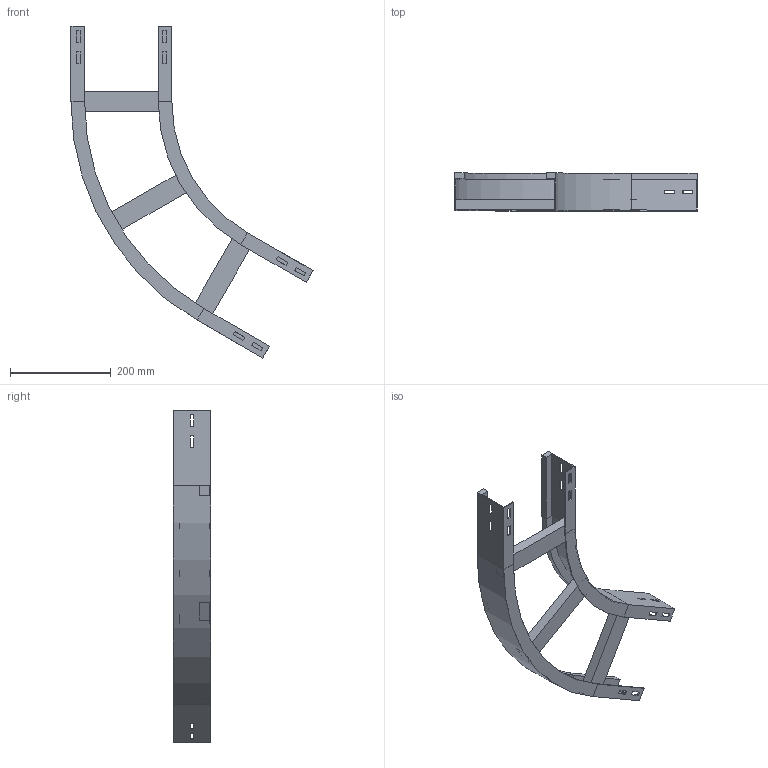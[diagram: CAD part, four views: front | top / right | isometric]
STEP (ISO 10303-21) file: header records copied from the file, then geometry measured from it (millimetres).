
FILE_DESCRIPTION (( 'STEP AP214' ), '1' );
FILE_NAME ('A2_13B3C200.step', '2025-02-21T15:21:04', ( '' ), ( '' ), 'SwSTEP 2.0', 'SolidWorks 2023', '' );
FILE_SCHEMA (( 'AUTOMOTIVE_DESIGN' ));
Length unit declared in the file: millimetre
Products named in the file (4): A2_LONGH.INTERNO 60°_H75_R300; A2_13B3C200; TRAVERSINO_200; A2_LONGH.ESTERNO 60°_H75_R300+200
Assembly tree (5 placements, depth 2):
  A2_13B3C200
    A2_LONGH.INTERNO 60°_H75_R300
    A2_LONGH.ESTERNO 60°_H75_R300+200
    TRAVERSINO_200  x3
Bounding box: 479.9 x 75 x 658.01 mm (x, y, z)
Volume: 1034953.2 mm3; surface area: 413814.9 mm2
Topology: 5 solids, 5 shells, 134 faces, 340 edges, 216 vertices
Faces by surface type: plane 126, cylinder 8
Entity records: 3821 total; most frequent: CARTESIAN_POINT 646, ORIENTED_EDGE 632, DIRECTION 592, EDGE_CURVE 316, VECTOR 300, LINE 300, VERTEX_POINT 200, EDGE_LOOP 154
